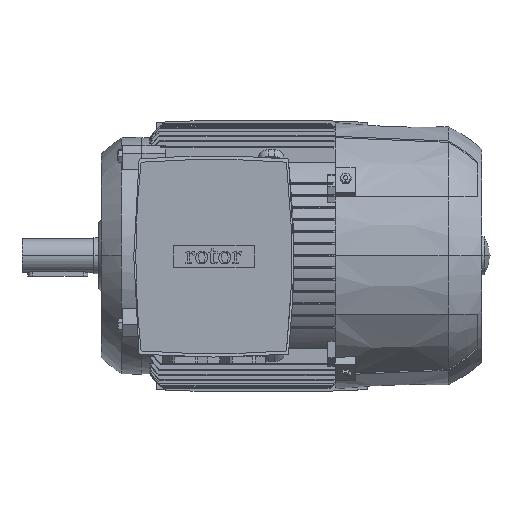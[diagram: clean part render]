
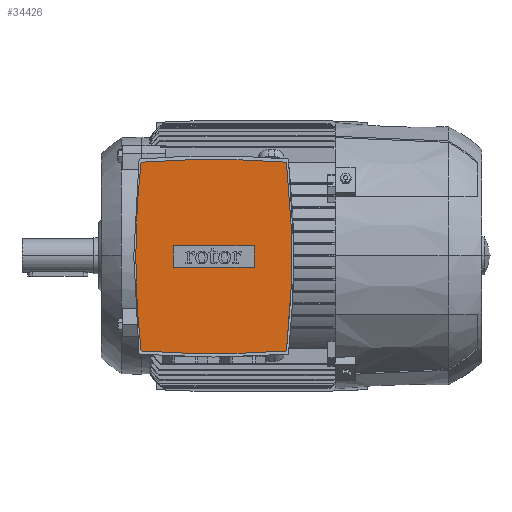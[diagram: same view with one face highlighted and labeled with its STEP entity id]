
A CAD part, top view. The second image highlights one B-rep face of the part: STEP entity #34426.
In plain terms, the highlighted planar face has unit normal (0, 0, 1).
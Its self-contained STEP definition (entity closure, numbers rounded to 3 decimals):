
#138 = DIRECTION ( 'NONE',  ( 0., 0., -1. ) ) ;
#441 = CARTESIAN_POINT ( 'NONE',  ( 120.661, -79.775, 196. ) ) ;
#1362 = ORIENTED_EDGE ( 'NONE', *, *, #1922, .F. ) ;
#1922 = EDGE_CURVE ( 'NONE', #10836, #43313, #10806, .T. ) ;
#3932 = EDGE_LOOP ( 'NONE', ( #21604, #34791, #58363, #53868 ) ) ;
#4101 = CIRCLE ( 'NONE', #59067, 717.2 ) ;
#4284 = ORIENTED_EDGE ( 'NONE', *, *, #27082, .F. ) ;
#4410 = DIRECTION ( 'NONE',  ( 0., 0., -1. ) ) ;
#4430 = AXIS2_PLACEMENT_3D ( 'NONE', #47574, #18895, #52650 ) ;
#4708 = EDGE_LOOP ( 'NONE', ( #1362, #34444, #46514, #36546, #4284 ) ) ;
#4860 = CARTESIAN_POINT ( 'NONE',  ( 26.25, -1., 196. ) ) ;
#5385 = CARTESIAN_POINT ( 'NONE',  ( 60., -1., 196. ) ) ;
#6565 = CARTESIAN_POINT ( 'NONE',  ( 712.2, -1., 196. ) ) ;
#7223 = CARTESIAN_POINT ( 'NONE',  ( 120.661, 77.775, 196. ) ) ;
#7715 = CARTESIAN_POINT ( 'NONE',  ( 26.25, -10.05, 196. ) ) ;
#7802 = DIRECTION ( 'NONE',  ( -1., 0., 0. ) ) ;
#8752 = DIRECTION ( 'NONE',  ( 1., 0., 0. ) ) ;
#9736 = FACE_BOUND ( 'NONE', #3932, .T. ) ;
#10185 = DIRECTION ( 'NONE',  ( 1., 0., 0. ) ) ;
#10700 = CIRCLE ( 'NONE', #4430, 828.12 ) ;
#10806 = CIRCLE ( 'NONE', #44436, 828.12 ) ;
#10836 = VERTEX_POINT ( 'NONE', #38611 ) ;
#11317 = DIRECTION ( 'NONE',  ( -1., 0., 0. ) ) ;
#13074 = VERTEX_POINT ( 'NONE', #35436 ) ;
#16634 = EDGE_CURVE ( 'NONE', #58344, #13074, #39906, .T. ) ;
#17637 = EDGE_CURVE ( 'NONE', #13074, #52695, #21634, .T. ) ;
#18584 = AXIS2_PLACEMENT_3D ( 'NONE', #5385, #38824, #10185 ) ;
#18895 = DIRECTION ( 'NONE',  ( 0., 0., -1. ) ) ;
#21366 = CARTESIAN_POINT ( 'NONE',  ( 60., -10.05, 196. ) ) ;
#21604 = ORIENTED_EDGE ( 'NONE', *, *, #34290, .T. ) ;
#21634 = LINE ( 'NONE', #21366, #21749 ) ;
#21749 = VECTOR ( 'NONE', #30932, 1000. ) ;
#23132 = EDGE_CURVE ( 'NONE', #51789, #44160, #58177, .T. ) ;
#23500 = DIRECTION ( 'NONE',  ( 0., -1., 0. ) ) ;
#26627 = AXIS2_PLACEMENT_3D ( 'NONE', #28773, #138, #33632 ) ;
#27082 = EDGE_CURVE ( 'NONE', #43313, #41386, #55704, .T. ) ;
#27175 = CARTESIAN_POINT ( 'NONE',  ( 60., -748.12, 196. ) ) ;
#28773 = CARTESIAN_POINT ( 'NONE',  ( -592.2, -1., 196. ) ) ;
#30043 = CARTESIAN_POINT ( 'NONE',  ( -0.661, -79.775, 196. ) ) ;
#30932 = DIRECTION ( 'NONE',  ( -1., 0., 0. ) ) ;
#33010 = CARTESIAN_POINT ( 'NONE',  ( 712.2, -1., 196. ) ) ;
#33632 = DIRECTION ( 'NONE',  ( -1., 0., 0. ) ) ;
#33761 = PLANE ( 'NONE',  #18584 ) ;
#33810 = EDGE_CURVE ( 'NONE', #44160, #10836, #4101, .T. ) ;
#34290 = EDGE_CURVE ( 'NONE', #55586, #58344, #55046, .T. ) ;
#34426 = ADVANCED_FACE ( 'NONE', ( #57154, #9736 ), #33761, .T. ) ;
#34444 = ORIENTED_EDGE ( 'NONE', *, *, #33810, .F. ) ;
#34791 = ORIENTED_EDGE ( 'NONE', *, *, #16634, .T. ) ;
#35436 = CARTESIAN_POINT ( 'NONE',  ( 93.75, -10.05, 196. ) ) ;
#36546 = ORIENTED_EDGE ( 'NONE', *, *, #43007, .F. ) ;
#37383 = CARTESIAN_POINT ( 'NONE',  ( 60., 8.05, 196. ) ) ;
#37587 = CARTESIAN_POINT ( 'NONE',  ( 93.75, -1., 196. ) ) ;
#37869 = DIRECTION ( 'NONE',  ( -1., 0., 0. ) ) ;
#38302 = DIRECTION ( 'NONE',  ( 0., 1., 0. ) ) ;
#38336 = EDGE_CURVE ( 'NONE', #52695, #55586, #56719, .T. ) ;
#38611 = CARTESIAN_POINT ( 'NONE',  ( -0.661, 77.775, 196. ) ) ;
#38808 = DIRECTION ( 'NONE',  ( 0., 0., -1. ) ) ;
#38824 = DIRECTION ( 'NONE',  ( 0., 0., 1. ) ) ;
#38979 = CARTESIAN_POINT ( 'NONE',  ( 93.75, 8.05, 196. ) ) ;
#39471 = VECTOR ( 'NONE', #23500, 1000. ) ;
#39906 = LINE ( 'NONE', #37587, #39471 ) ;
#39920 = VECTOR ( 'NONE', #8752, 1000. ) ;
#39965 = DIRECTION ( 'NONE',  ( 0., 0., -1. ) ) ;
#40032 = CARTESIAN_POINT ( 'NONE',  ( 26.25, 8.05, 196. ) ) ;
#40066 = AXIS2_PLACEMENT_3D ( 'NONE', #6565, #39965, #11317 ) ;
#41386 = VERTEX_POINT ( 'NONE', #441 ) ;
#43007 = EDGE_CURVE ( 'NONE', #41386, #51789, #10700, .T. ) ;
#43313 = VERTEX_POINT ( 'NONE', #7223 ) ;
#43931 = CARTESIAN_POINT ( 'NONE',  ( -5., -1., 196. ) ) ;
#44160 = VERTEX_POINT ( 'NONE', #43931 ) ;
#44436 = AXIS2_PLACEMENT_3D ( 'NONE', #27175, #38808, #7802 ) ;
#46514 = ORIENTED_EDGE ( 'NONE', *, *, #23132, .F. ) ;
#47574 = CARTESIAN_POINT ( 'NONE',  ( 60., 746.12, 196. ) ) ;
#51789 = VERTEX_POINT ( 'NONE', #30043 ) ;
#52650 = DIRECTION ( 'NONE',  ( -1., 0., 0. ) ) ;
#52695 = VERTEX_POINT ( 'NONE', #7715 ) ;
#53868 = ORIENTED_EDGE ( 'NONE', *, *, #38336, .T. ) ;
#55046 = LINE ( 'NONE', #37383, #39920 ) ;
#55586 = VERTEX_POINT ( 'NONE', #40032 ) ;
#55704 = CIRCLE ( 'NONE', #26627, 717.2 ) ;
#56670 = VECTOR ( 'NONE', #38302, 1000. ) ;
#56719 = LINE ( 'NONE', #4860, #56670 ) ;
#57154 = FACE_OUTER_BOUND ( 'NONE', #4708, .T. ) ;
#58177 = CIRCLE ( 'NONE', #40066, 717.2 ) ;
#58344 = VERTEX_POINT ( 'NONE', #38979 ) ;
#58363 = ORIENTED_EDGE ( 'NONE', *, *, #17637, .T. ) ;
#59067 = AXIS2_PLACEMENT_3D ( 'NONE', #33010, #4410, #37869 ) ;
